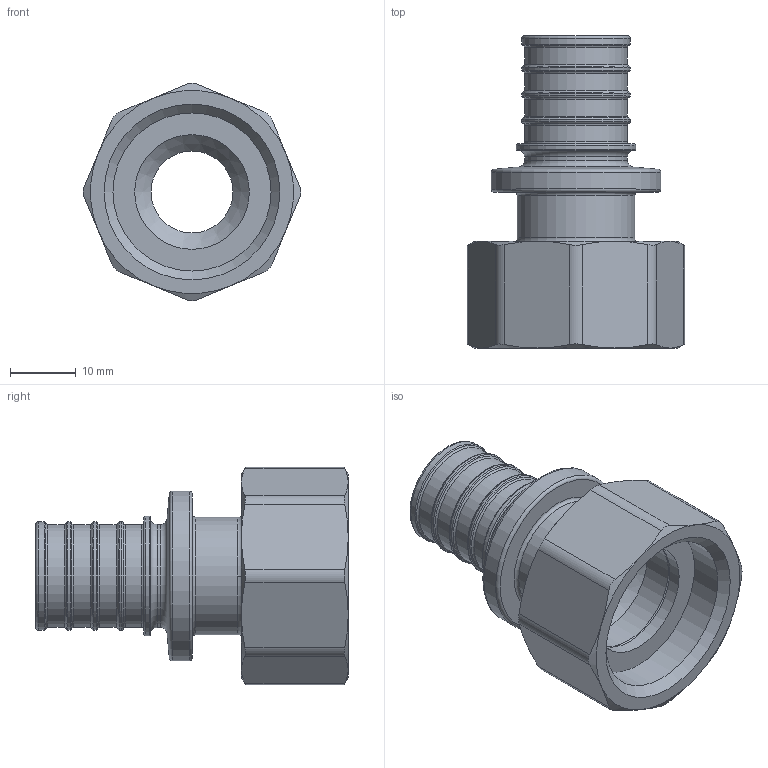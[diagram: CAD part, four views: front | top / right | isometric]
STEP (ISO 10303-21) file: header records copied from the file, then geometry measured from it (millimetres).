
FILE_DESCRIPTION(('STEP AP203'), '1');
FILE_NAME('ﾂﾐ.302612.018.000 ﾑﾁ - VTm.422.G.002005 ﾔ頸. - 裝', '2024-01-23T13:28:10', ('Boss'), (''), 'C3D Converter', 'C3D Toolkit', '');
FILE_SCHEMA(('CONFIG_CONTROL_DESIGN'));
Length unit declared in the file: millimetre
Products named in the file (5): ВР.302612.018.000 СБ; ВР.714651.010; ВР.305323.016; ВР.753612.003; ВР.758421.031
Assembly tree (4 placements, depth 2):
  ВР.302612.018.000 СБ
    ВР.714651.010
    ВР.305323.016
    ВР.753612.003
    ВР.758421.031
Bounding box: 33.14 x 47.67 x 33.14 mm (x, y, z)
Volume: 11282.4 mm3; surface area: 9926.1 mm2
Topology: 4 solids, 4 shells, 108 faces, 220 edges, 126 vertices
Faces by surface type: torus 32, cylinder 29, cone 25, plane 22
Full cylindrical faces by diameter (mm): 12.5 x1, 15.7 x5, 16.5 x4, 17.5 x2, 17.9 x1, 18.2 x1, 21.4 x1, 24.118 x1, 24.2 x3, 25.9 x1, 26.7 x1
Entity records: 3783 total; most frequent: CARTESIAN_POINT 1622, DIRECTION 414, ORIENTED_EDGE 304, AXIS2_PLACEMENT_3D 199, EDGE_LOOP 173, EDGE_CURVE 152, VERTEX_POINT 121, FACE_OUTER_BOUND 108
